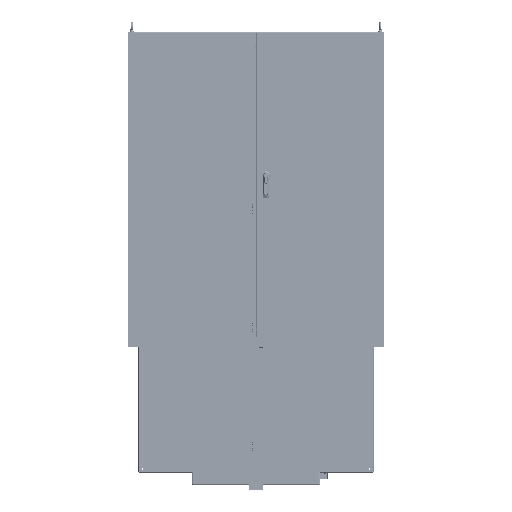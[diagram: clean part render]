
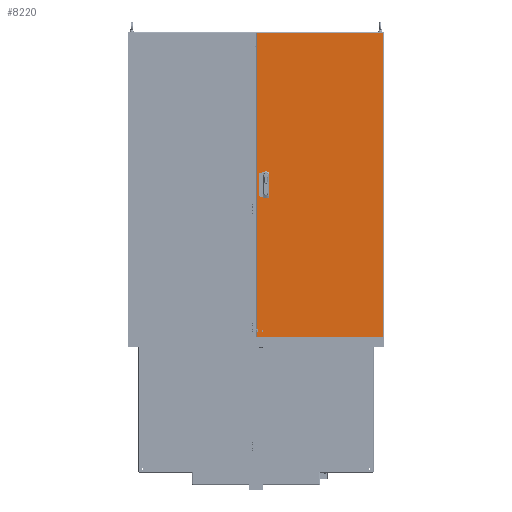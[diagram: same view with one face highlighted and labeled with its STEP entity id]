
A CAD part, front view. The second image highlights one B-rep face of the part: STEP entity #8220.
In plain terms, the highlighted planar face has unit normal (0, -1, 0).
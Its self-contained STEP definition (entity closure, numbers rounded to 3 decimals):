
#8220 = ADVANCED_FACE( '', ( #12486, #12487, #12488, #12489, #12490, #12491 ), #12492, .T. );
#12486 = FACE_BOUND( '', #19165, .T. );
#12487 = FACE_BOUND( '', #19166, .T. );
#12488 = FACE_BOUND( '', #19167, .T. );
#12489 = FACE_OUTER_BOUND( '', #19168, .T. );
#12490 = FACE_BOUND( '', #19169, .T. );
#12491 = FACE_BOUND( '', #19170, .T. );
#12492 = PLANE( '', #19171 );
#19165 = EDGE_LOOP( '', ( #35568, #35569, #35570, #35571 ) );
#19166 = EDGE_LOOP( '', ( #35572 ) );
#19167 = EDGE_LOOP( '', ( #35573, #35574, #35575, #35576 ) );
#19168 = EDGE_LOOP( '', ( #35577, #35578, #35579, #35580 ) );
#19169 = EDGE_LOOP( '', ( #35581, #35582, #35583, #35584 ) );
#19170 = EDGE_LOOP( '', ( #35585 ) );
#19171 = AXIS2_PLACEMENT_3D( '', #35586, #35587, #35588 );
#35568 = ORIENTED_EDGE( '', *, *, #52596, .F. );
#35569 = ORIENTED_EDGE( '', *, *, #52597, .F. );
#35570 = ORIENTED_EDGE( '', *, *, #52598, .F. );
#35571 = ORIENTED_EDGE( '', *, *, #52599, .F. );
#35572 = ORIENTED_EDGE( '', *, *, #52600, .T. );
#35573 = ORIENTED_EDGE( '', *, *, #52601, .F. );
#35574 = ORIENTED_EDGE( '', *, *, #52602, .F. );
#35575 = ORIENTED_EDGE( '', *, *, #52603, .F. );
#35576 = ORIENTED_EDGE( '', *, *, #52604, .F. );
#35577 = ORIENTED_EDGE( '', *, *, #52605, .T. );
#35578 = ORIENTED_EDGE( '', *, *, #52606, .F. );
#35579 = ORIENTED_EDGE( '', *, *, #52607, .F. );
#35580 = ORIENTED_EDGE( '', *, *, #52608, .F. );
#35581 = ORIENTED_EDGE( '', *, *, #52609, .T. );
#35582 = ORIENTED_EDGE( '', *, *, #52610, .T. );
#35583 = ORIENTED_EDGE( '', *, *, #52611, .T. );
#35584 = ORIENTED_EDGE( '', *, *, #52612, .T. );
#35585 = ORIENTED_EDGE( '', *, *, #52613, .T. );
#35586 = CARTESIAN_POINT( '', ( -397.701, 0., -948.531 ) );
#35587 = DIRECTION( '', ( 0., -1., 0. ) );
#35588 = DIRECTION( '', ( 0., 0., -1. ) );
#52596 = EDGE_CURVE( '', #61086, #61087, #61088, .T. );
#52597 = EDGE_CURVE( '', #61089, #61086, #61090, .T. );
#52598 = EDGE_CURVE( '', #61091, #61089, #61092, .T. );
#52599 = EDGE_CURVE( '', #61087, #61091, #61093, .T. );
#52600 = EDGE_CURVE( '', #61094, #61094, #61095, .T. );
#52601 = EDGE_CURVE( '', #61096, #61097, #61098, .T. );
#52602 = EDGE_CURVE( '', #61099, #61096, #61100, .T. );
#52603 = EDGE_CURVE( '', #61101, #61099, #61102, .T. );
#52604 = EDGE_CURVE( '', #61097, #61101, #61103, .T. );
#52605 = EDGE_CURVE( '', #61104, #61105, #61106, .T. );
#52606 = EDGE_CURVE( '', #61107, #61105, #61108, .T. );
#52607 = EDGE_CURVE( '', #61109, #61107, #61110, .T. );
#52608 = EDGE_CURVE( '', #61104, #61109, #61111, .T. );
#52609 = EDGE_CURVE( '', #61112, #61113, #61114, .T. );
#52610 = EDGE_CURVE( '', #61113, #61115, #61116, .T. );
#52611 = EDGE_CURVE( '', #61115, #61117, #61118, .T. );
#52612 = EDGE_CURVE( '', #61117, #61112, #61119, .T. );
#52613 = EDGE_CURVE( '', #61120, #61120, #61121, .T. );
#61086 = VERTEX_POINT( '', #74555 );
#61087 = VERTEX_POINT( '', #74556 );
#61088 = LINE( '', #74557, #74558 );
#61089 = VERTEX_POINT( '', #74559 );
#61090 = LINE( '', #74560, #74561 );
#61091 = VERTEX_POINT( '', #74562 );
#61092 = LINE( '', #74563, #74564 );
#61093 = LINE( '', #74565, #74566 );
#61094 = VERTEX_POINT( '', #74567 );
#61095 = CIRCLE( '', #74568, 4.013 );
#61096 = VERTEX_POINT( '', #74569 );
#61097 = VERTEX_POINT( '', #74570 );
#61098 = LINE( '', #74571, #74572 );
#61099 = VERTEX_POINT( '', #74573 );
#61100 = LINE( '', #74574, #74575 );
#61101 = VERTEX_POINT( '', #74576 );
#61102 = LINE( '', #74577, #74578 );
#61103 = LINE( '', #74579, #74580 );
#61104 = VERTEX_POINT( '', #74581 );
#61105 = VERTEX_POINT( '', #74582 );
#61106 = LINE( '', #74583, #74584 );
#61107 = VERTEX_POINT( '', #74585 );
#61108 = LINE( '', #74586, #74587 );
#61109 = VERTEX_POINT( '', #74588 );
#61110 = LINE( '', #74589, #74590 );
#61111 = LINE( '', #74591, #74592 );
#61112 = VERTEX_POINT( '', #74593 );
#61113 = VERTEX_POINT( '', #74594 );
#61114 = LINE( '', #74595, #74596 );
#61115 = VERTEX_POINT( '', #74597 );
#61116 = LINE( '', #74598, #74599 );
#61117 = VERTEX_POINT( '', #74600 );
#61118 = LINE( '', #74601, #74602 );
#61119 = LINE( '', #74603, #74604 );
#61120 = VERTEX_POINT( '', #74605 );
#61121 = CIRCLE( '', #74606, 4.013 );
#74555 = CARTESIAN_POINT( '', ( -350.183, 0., 75.006 ) );
#74556 = CARTESIAN_POINT( '', ( -350.183, 0., 24.994 ) );
#74557 = CARTESIAN_POINT( '', ( -350.183, 0., 75.006 ) );
#74558 = VECTOR( '', #92584, 1000. );
#74559 = CARTESIAN_POINT( '', ( -325.189, 0., 75.006 ) );
#74560 = CARTESIAN_POINT( '', ( -325.189, 0., 75.006 ) );
#74561 = VECTOR( '', #92585, 1000. );
#74562 = CARTESIAN_POINT( '', ( -325.189, 0., 24.994 ) );
#74563 = CARTESIAN_POINT( '', ( -325.189, 0., 24.994 ) );
#74564 = VECTOR( '', #92586, 1000. );
#74565 = CARTESIAN_POINT( '', ( -350.183, 0., 24.994 ) );
#74566 = VECTOR( '', #92587, 1000. );
#74567 = CARTESIAN_POINT( '', ( -369.664, 0., 35.001 ) );
#74568 = AXIS2_PLACEMENT_3D( '', #92588, #92589, #92590 );
#74569 = CARTESIAN_POINT( '', ( -374.198, 0., 15.875 ) );
#74570 = CARTESIAN_POINT( '', ( -374.198, 0., -15.875 ) );
#74571 = CARTESIAN_POINT( '', ( -374.198, 0., 15.875 ) );
#74572 = VECTOR( '', #92591, 1000. );
#74573 = CARTESIAN_POINT( '', ( -369.194, 0., 15.875 ) );
#74574 = CARTESIAN_POINT( '', ( -369.194, 0., 15.875 ) );
#74575 = VECTOR( '', #92592, 1000. );
#74576 = CARTESIAN_POINT( '', ( -369.194, 0., -15.875 ) );
#74577 = CARTESIAN_POINT( '', ( -369.194, 0., -15.875 ) );
#74578 = VECTOR( '', #92593, 1000. );
#74579 = CARTESIAN_POINT( '', ( -374.198, 0., -15.875 ) );
#74580 = VECTOR( '', #92594, 1000. );
#74581 = CARTESIAN_POINT( '', ( 394.957, 0., 945.788 ) );
#74582 = CARTESIAN_POINT( '', ( -394.957, 0., 945.788 ) );
#74583 = CARTESIAN_POINT( '', ( 394.957, 0., 945.788 ) );
#74584 = VECTOR( '', #92595, 1000. );
#74585 = CARTESIAN_POINT( '', ( -394.957, 0., -945.788 ) );
#74586 = CARTESIAN_POINT( '', ( -394.957, 0., -945.788 ) );
#74587 = VECTOR( '', #92596, 1000. );
#74588 = CARTESIAN_POINT( '', ( 394.957, 0., -945.788 ) );
#74589 = CARTESIAN_POINT( '', ( 394.957, 0., -945.788 ) );
#74590 = VECTOR( '', #92597, 1000. );
#74591 = CARTESIAN_POINT( '', ( 394.957, 0., 945.788 ) );
#74592 = VECTOR( '', #92598, 1000. );
#74593 = CARTESIAN_POINT( '', ( -350.183, 0., -25.019 ) );
#74594 = CARTESIAN_POINT( '', ( -325.189, 0., -25.019 ) );
#74595 = CARTESIAN_POINT( '', ( -350.183, 0., -25.019 ) );
#74596 = VECTOR( '', #92599, 1000. );
#74597 = CARTESIAN_POINT( '', ( -325.189, 0., -75.032 ) );
#74598 = CARTESIAN_POINT( '', ( -325.189, 0., -25.019 ) );
#74599 = VECTOR( '', #92600, 1000. );
#74600 = CARTESIAN_POINT( '', ( -350.183, 0., -75.032 ) );
#74601 = CARTESIAN_POINT( '', ( -325.189, 0., -75.032 ) );
#74602 = VECTOR( '', #92601, 1000. );
#74603 = CARTESIAN_POINT( '', ( -350.183, 0., -75.032 ) );
#74604 = VECTOR( '', #92602, 1000. );
#74605 = CARTESIAN_POINT( '', ( -369.664, 0., -35.001 ) );
#74606 = AXIS2_PLACEMENT_3D( '', #92603, #92604, #92605 );
#92584 = DIRECTION( '', ( 0., 0., -1. ) );
#92585 = DIRECTION( '', ( -1., 0., 0. ) );
#92586 = DIRECTION( '', ( 0., 0., 1. ) );
#92587 = DIRECTION( '', ( 1., 0., 0. ) );
#92588 = CARTESIAN_POINT( '', ( -373.678, 0., 35.001 ) );
#92589 = DIRECTION( '', ( 0., 1., 0. ) );
#92590 = DIRECTION( '', ( 1., 0., 0. ) );
#92591 = DIRECTION( '', ( 0., 0., -1. ) );
#92592 = DIRECTION( '', ( -1., 0., 0. ) );
#92593 = DIRECTION( '', ( 0., 0., 1. ) );
#92594 = DIRECTION( '', ( 1., 0., 0. ) );
#92595 = DIRECTION( '', ( -1., 0., 0. ) );
#92596 = DIRECTION( '', ( 0., 0., 1. ) );
#92597 = DIRECTION( '', ( -1., 0., 0. ) );
#92598 = DIRECTION( '', ( 0., 0., -1. ) );
#92599 = DIRECTION( '', ( 1., 0., 0. ) );
#92600 = DIRECTION( '', ( 0., 0., -1. ) );
#92601 = DIRECTION( '', ( -1., 0., 0. ) );
#92602 = DIRECTION( '', ( 0., 0., 1. ) );
#92603 = CARTESIAN_POINT( '', ( -373.678, 0., -35.001 ) );
#92604 = DIRECTION( '', ( 0., 1., 0. ) );
#92605 = DIRECTION( '', ( 1., 0., 0. ) );
